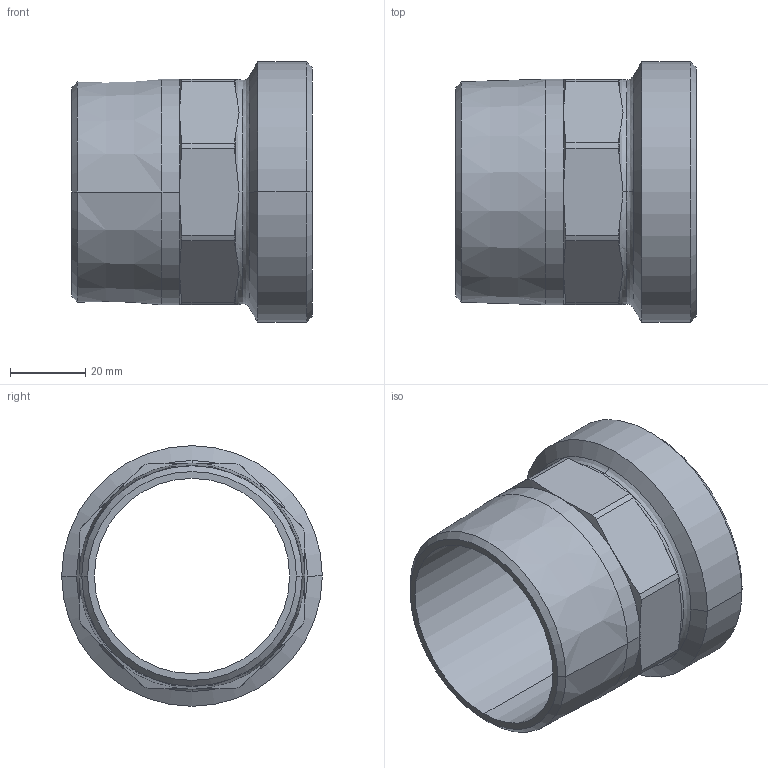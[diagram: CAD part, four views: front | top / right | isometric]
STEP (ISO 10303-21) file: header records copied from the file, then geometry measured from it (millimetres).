
FILE_DESCRIPTION((''),'2;1');
FILE_NAME('G:\BIR\Pajchrowski\projekty\8000 models\4376g\4376g STEP\14376_2-238.stp','2006-04-28T11:33:56',('pajchrowski'),(''),'Autodesk Inventor 8','Autodesk Inventor 8','');
FILE_SCHEMA(('AUTOMOTIVE_DESIGN { 1 0 10303 214 1 1 1 1 }'));
Length unit declared in the file: millimetre
Products named in the file (1): 14376_2-238
Bounding box: 64 x 69.4 x 69.4 mm (x, y, z)
Volume: 60570.3 mm3; surface area: 25698.1 mm2
Topology: 1 solids, 1 shells, 54 faces, 144 edges, 92 vertices
Faces by surface type: cone 18, plane 18, cylinder 14, bspline 4
Entity records: 1973 total; most frequent: CARTESIAN_POINT 675, ORIENTED_EDGE 288, DIRECTION 266, EDGE_CURVE 144, AXIS2_PLACEMENT_3D 113, VERTEX_POINT 92, CIRCLE 62, EDGE_LOOP 56
